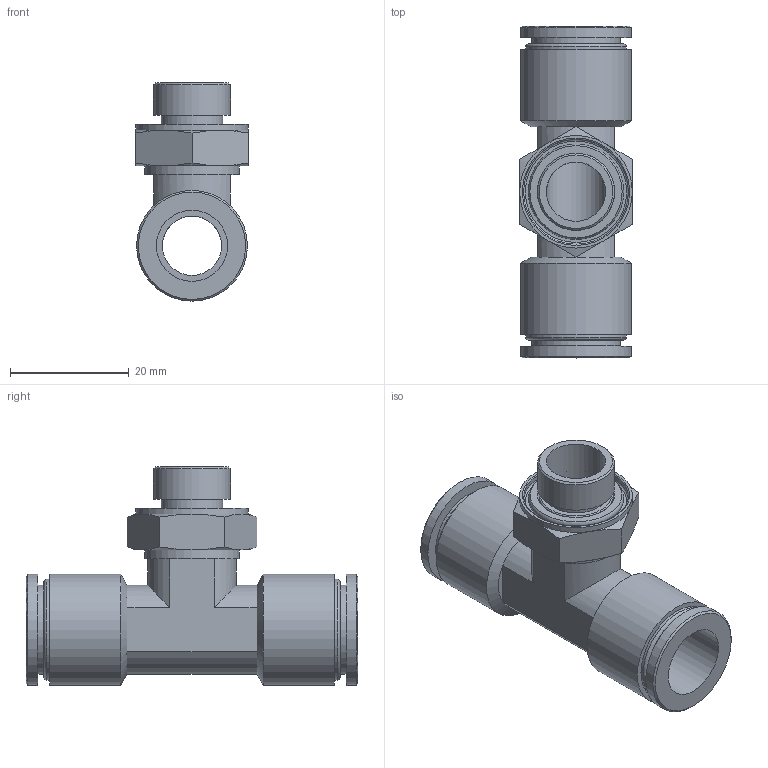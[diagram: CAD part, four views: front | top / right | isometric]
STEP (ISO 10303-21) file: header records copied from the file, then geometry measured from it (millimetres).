
FILE_DESCRIPTION(/* description */ (''),/* implementation_level */ '2;1');
FILE_NAME(/* name */ 'LXH38 0012 B2.stp',/* time_stamp */ '2026-04-25T14:44:06+02:00',/* author */ ('freju'),/* organization */ (''),/* preprocessor_version */ 'ST-DEVELOPER v20.1',/* originating_system */ 'Autodesk Inventor 2026',/* authorisation */ '');
FILE_SCHEMA (('AUTOMOTIVE_DESIGN { 1 0 10303 214 3 1 1 }'));
Length unit declared in the file: millimetre
Products named in the file (4): LXH38 0012 B2; LXH38 0012 B2_1; O-Ring; ISO 3601-1 - A 0125 G
Assembly tree (3 placements, depth 3):
  LXH38 0012 B2
    LXH38 0012 B2_1
    O-Ring
      ISO 3601-1 - A 0125 G
Bounding box: 19 x 56 x 36.85 mm (x, y, z)
Volume: 9138.1 mm3; surface area: 8231.5 mm2
Topology: 2 solids, 2 shells, 79 faces, 162 edges, 100 vertices
Faces by surface type: plane 31, cylinder 23, cone 17, torus 8
Full cylindrical faces by diameter (mm): 10 x2, 10.4 x1, 12 x2, 12.5 x1, 13 x1, 15 x2, 16 x1, 17 x2, 17.7 x1, 18.7 x4, 19 x1
Entity records: 2226 total; most frequent: DIRECTION 402, CARTESIAN_POINT 396, ORIENTED_EDGE 324, AXIS2_PLACEMENT_3D 178, EDGE_CURVE 162, VERTEX_POINT 100, EDGE_LOOP 98, CIRCLE 88
